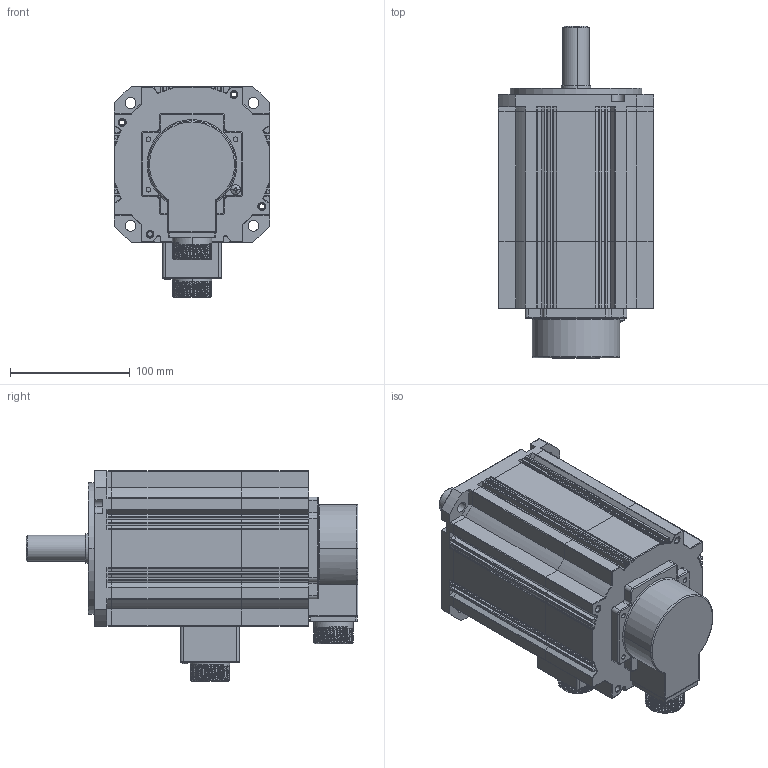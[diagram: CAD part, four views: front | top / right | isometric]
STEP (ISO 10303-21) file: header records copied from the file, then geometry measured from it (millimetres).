
FILE_DESCRIPTION (( 'STEP AP203' ), '1' );
FILE_NAME ('WF130ST-Z1M095520.STEP', '2021-07-26T09:42:25', ( '' ), ( '' ), 'SwSTEP 2.0', 'SolidWorks 2018', '' );
FILE_SCHEMA (( 'CONFIG_CONTROL_DESIGN' ));
Length unit declared in the file: millimetre
Products named in the file (17): 脣釱1; 惕掅綴傷裔; 盓傅啣; deep groove ball bearings gb_Rolling bearings 6205 GB 276-94; jike; 晤鎢ん; ヶ傷裔; cross recessed pan head screws gb_GB_CROSS_SCREWS_TYPE1 M4X12-12  H type-N; WF130ST-Z1M095520; 晤鎢欶裔; 蛌赽軞傖; hexagon socket head cap screws gb_GB_FASTENER_SCREWS_HSHCS M5X20-N; cross recessed pan head screws gb_GB_CROSS_SCREWS_TYPE1 M3X12-12  H type-N; 瑤脣裔; 瑤脣窒煦; 粣; deep groove ball bearings gb_Rolling bearings 6204 GB 276-94
Assembly tree (20 placements, depth 3):
  WF130ST-Z1M095520
    jike
    瑤脣窒煦
      瑤脣裔
      脣釱1
      盓傅啣
    ヶ傷裔
    晤鎢欶裔
    脣釱1
    hexagon socket head cap screws gb_GB_FASTENER_SCREWS_HSHCS M5X20-N
    cross recessed pan head screws gb_GB_CROSS_SCREWS_TYPE1 M4X12-12  H type-N
    cross recessed pan head screws gb_GB_CROSS_SCREWS_TYPE1 M3X12-12  H type-N  x2
    晤鎢ん
    蛌赽軞傖
      粣
      deep groove ball bearings gb_Rolling bearings 6205 GB 276-94  x2
      deep groove ball bearings gb_Rolling bearings 6204 GB 276-94  x2
    惕掅綴傷裔
Bounding box: 130 x 277 x 176 mm (x, y, z)
Volume: 1191567.1 mm3; surface area: 430487.4 mm2
Topology: 18 solids, 18 shells, 2235 faces, 6566 edges, 4157 vertices
Faces by surface type: cylinder 919, plane 585, torus 401, sphere 196, bspline 114, cone 20
Entity records: 69891 total; most frequent: CARTESIAN_POINT 21097, ORIENTED_EDGE 10054, DIRECTION 9892, EDGE_CURVE 5027, AXIS2_PLACEMENT_3D 3951, VERTEX_POINT 3161, CIRCLE 2133, EDGE_LOOP 2064
